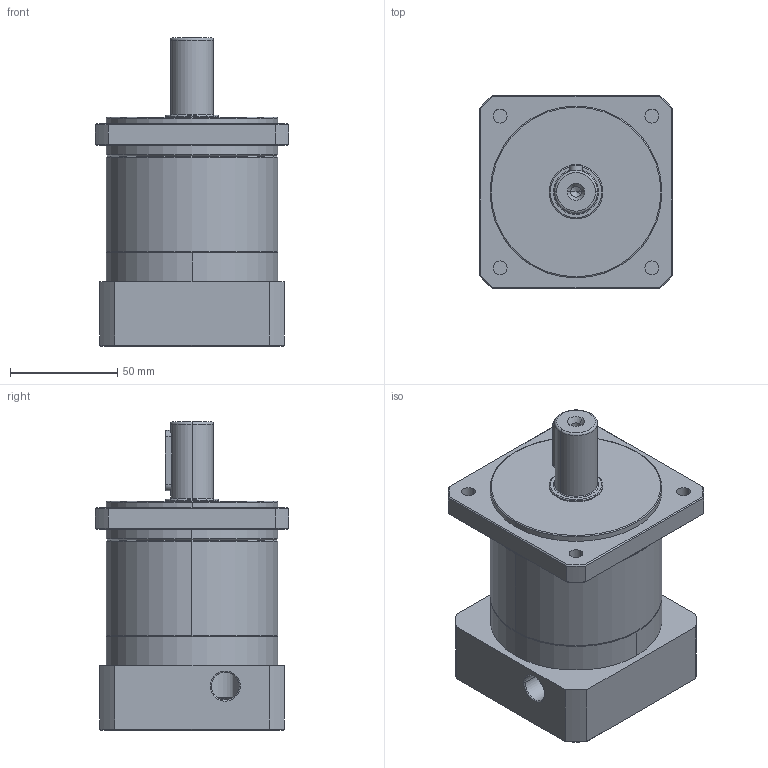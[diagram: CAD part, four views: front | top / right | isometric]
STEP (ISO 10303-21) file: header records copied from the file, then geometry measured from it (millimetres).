
FILE_DESCRIPTION (( 'STEP AP214' ), '1' );
FILE_NAME ('6.0028 PF80-5-P2S2OP1-19×40-80-100M6.STEP', '2026-02-13T08:33:37', ( '' ), ( '' ), 'SwSTEP 2.0', 'SolidWorks 2025', '' );
FILE_SCHEMA (( 'AUTOMOTIVE_DESIGN' ));
Length unit declared in the file: millimetre
Products named in the file (1): 6.0028 PF80-5-P2S2OP1-19×40-80-100M6
Bounding box: 90 x 90 x 143.5 mm (x, y, z)
Volume: 568616.2 mm3; surface area: 66244.8 mm2
Topology: 1 solids, 1 shells, 173 faces, 399 edges, 234 vertices
Faces by surface type: cylinder 65, cone 49, plane 40, torus 19
Entity records: 7120 total; most frequent: CARTESIAN_POINT 1231, DIRECTION 892, ORIENTED_EDGE 778, EDGE_CURVE 389, AXIS2_PLACEMENT_3D 371, VERTEX_POINT 234, EDGE_LOOP 205, CIRCLE 197
